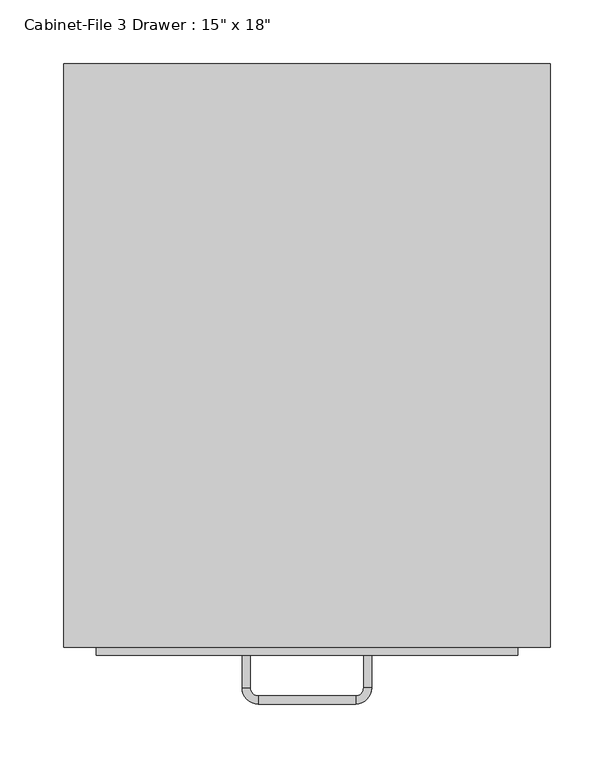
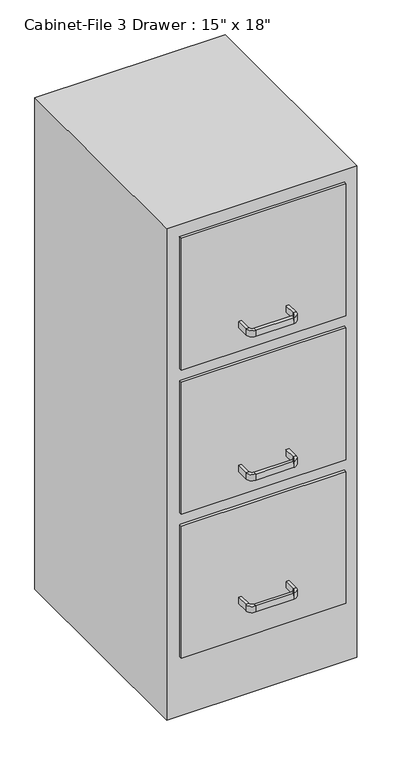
"""IFC4 building model written with IfcOpenShell, lengths in millimetres: furniture geometry."""

from ifc_helpers import new_model, si_unit, frame, origin, origin_with_axes, place, context, project, spatial, polyline, circle_curve, outline, extrude, source, transform, mapped, element, save
from ifc_brep_helpers import plane_surface, cylinder_surface, revolved_surface, advanced_brep


def furniture_552c1472(model_context):
    return source(origin(), model_context, "Body", "SolidModel", [
        extrude(outline(polyline([(62.603553, 86.4656999), (62.603553, -370.7343001), (-318.396447, -370.7343001), (-318.396447, 86.4656999), (62.603553, 86.4656999)])), origin_with_axes(), (0.0, 0.0, 1.0), 1041.4),
        extrude(outline(polyline([(37.203553, -377.0843001), (-292.996447, -377.0843001), (-292.996447, -370.7343001), (37.203553, -370.7343001), (37.203553, -377.0843001)])), frame((0.0, 0.0, 736.6), z_axis=(0.0, 0.0, 1.0), x_axis=(1.0, 0.0, 0.0)), (0.0, 0.0, 1.0), 279.4),
        extrude(outline(polyline([(37.203553, -377.0843001), (-292.996447, -377.0843001), (-292.996447, -370.7343001), (37.203553, -370.7343001), (37.203553, -377.0843001)])), frame((0.0, 0.0, 431.8), z_axis=(0.0, 0.0, 1.0), x_axis=(1.0, 0.0, 0.0)), (0.0, 0.0, 1.0), 279.4),
        extrude(outline(polyline([(37.203553, -377.0843001), (-292.996447, -377.0843001), (-292.996447, -370.7343001), (37.203553, -370.7343001), (37.203553, -377.0843001)])), frame((0.0, 0.0, 127.0), z_axis=(0.0, 0.0, 1.0), x_axis=(1.0, 0.0, 0.0)), (0.0, 0.0, 1.0), 279.4),
        advanced_brep(
        [(-172.346447, -377.0843001, 203.2), (-178.696447, -377.0843001, 203.2), (-178.696447, -377.0843001, 215.9), (-172.346447, -377.0843001, 215.9), (-172.346447, -402.4843001, 203.2), (-178.696447, -402.4843001, 203.2), (-178.696447, -402.4843001, 215.9), (-172.346447, -402.4843001, 215.9), (-165.996447, -415.1843001, 203.2), (-165.996447, -408.8343001, 203.2), (-165.996447, -415.1843001, 215.9), (-165.996447, -408.8343001, 215.9), (-89.796447, -408.8343001, 203.2), (-89.796447, -415.1843001, 203.2), (-89.796447, -415.1843001, 215.9), (-89.796447, -408.8343001, 215.9), (-77.096447, -402.4843001, 203.2), (-83.446447, -402.4843001, 203.2), (-77.096447, -402.4843001, 215.9), (-83.446447, -402.4843001, 215.9), (-83.446447, -377.0843001, 203.2), (-83.446447, -377.0843001, 215.9), (-77.096447, -377.0843001, 215.9), (-77.096447, -377.0843001, 203.2)],
        [
            (0, 1),
            (1, 2),
            (2, 3),
            (3, 0),
            (0, 4),
            (4, 5),
            (5, 1),
            (5, 6),
            (6, 2),
            (6, 7),
            (7, 3),
            (7, 4),
            (8, 5, circle_curve(frame((-165.996447, -402.4843001, 203.2), z_axis=(0.0, 0.0, -1.0), x_axis=(-1.0, 0.0, 0.0)), 12.7)),
            (4, 9, circle_curve(frame((-165.996447, -402.4843001, 203.2), z_axis=(0.0, 0.0, 1.0), x_axis=(-1.0, 0.0, 0.0)), 6.35)),
            (9, 8),
            (10, 6, circle_curve(frame((-165.996447, -402.4843001, 215.9), z_axis=(0.0, 0.0, -1.0), x_axis=(-1.0, 0.0, 0.0)), 12.7)),
            (8, 10),
            (11, 7, circle_curve(frame((-165.996447, -402.4843001, 215.9), z_axis=(0.0, 0.0, -1.0), x_axis=(-1.0, 0.0, 0.0)), 6.35)),
            (10, 11),
            (11, 9),
            (9, 12),
            (12, 13),
            (13, 8),
            (13, 14),
            (14, 10),
            (14, 15),
            (15, 11),
            (15, 12),
            (16, 13, circle_curve(frame((-89.796447, -402.4843001, 203.2), z_axis=(0.0, 0.0, -1.0), x_axis=(0.0, -1.0, 0.0)), 12.7)),
            (12, 17, circle_curve(frame((-89.796447, -402.4843001, 203.2), z_axis=(0.0, 0.0, 1.0), x_axis=(0.0, -1.0, 0.0)), 6.35)),
            (17, 16),
            (18, 14, circle_curve(frame((-89.796447, -402.4843001, 215.9), z_axis=(0.0, 0.0, -1.0), x_axis=(0.0, -1.0, 0.0)), 12.7)),
            (16, 18),
            (19, 15, circle_curve(frame((-89.796447, -402.4843001, 215.9), z_axis=(0.0, 0.0, -1.0), x_axis=(0.0, -1.0, 0.0)), 6.35)),
            (18, 19),
            (19, 17),
            (20, 21),
            (21, 22),
            (22, 23),
            (23, 20),
            (17, 20),
            (23, 16),
            (22, 18),
            (21, 19),
        ],
        [
            plane_surface(frame((-978.8216451, -377.0843001, 0.0), z_axis=(0.0, 1.0, 0.0), x_axis=(0.0, 0.0, -1.0))),
            plane_surface(frame((-172.346447, -377.0843001, 203.2), z_axis=(0.0, 0.0, -1.0), x_axis=(0.0, -1.0, 0.0))),
            plane_surface(frame((-178.696447, -377.0843001, 203.2), z_axis=(-1.0, 0.0, 0.0), x_axis=(0.0, -1.0, 0.0))),
            plane_surface(frame((-178.696447, -377.0843001, 215.9), z_axis=(0.0, 0.0, 1.0), x_axis=(0.0, -1.0, 0.0))),
            plane_surface(frame((-172.346447, -377.0843001, 215.9), z_axis=(1.0, 0.0, 0.0), x_axis=(0.0, -1.0, 0.0))),
            plane_surface(frame((-165.996447, -402.4843001, 203.2), z_axis=(0.0, 0.0, -1.0), x_axis=(-1.0, 0.0, 0.0))),
            cylinder_surface(frame((-165.996447, -402.4843001, 0.0), z_axis=(0.0, 0.0, 1.0), x_axis=(-1.0, 0.0, 0.0)), 12.7),
            plane_surface(frame((-165.996447, -402.4843001, 215.9), z_axis=(0.0, 0.0, 1.0), x_axis=(-1.0, 0.0, 0.0))),
            revolved_surface(polyline([(-172.34644699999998, -402.4843001, 215.9), (-172.34644699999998, -402.4843001, 203.2)]), (-165.996447, -402.4843001, 0.0), (0.0, 0.0, 1.0)),
            plane_surface(frame((-165.996447, -408.8343001, 203.2), z_axis=(0.0, 0.0, -1.0), x_axis=(1.0, 0.0, 0.0))),
            plane_surface(frame((-165.996447, -415.1843001, 203.2), z_axis=(0.0, -1.0, 0.0), x_axis=(1.0, 0.0, 0.0))),
            plane_surface(frame((-165.996447, -415.1843001, 215.9), z_axis=(0.0, 0.0, 1.0), x_axis=(1.0, 0.0, 0.0))),
            plane_surface(frame((-165.996447, -408.8343001, 215.9), z_axis=(0.0, 1.0, 0.0), x_axis=(1.0, 0.0, 0.0))),
            plane_surface(frame((-89.796447, -402.4843001, 203.2), z_axis=(0.0, 0.0, -1.0), x_axis=(0.0, -1.0, 0.0))),
            cylinder_surface(frame((-89.796447, -402.4843001, 0.0), z_axis=(0.0, 0.0, 1.0), x_axis=(0.0, -1.0, 0.0)), 12.7),
            plane_surface(frame((-89.796447, -402.4843001, 215.9), z_axis=(0.0, 0.0, 1.0), x_axis=(0.0, -1.0, 0.0))),
            revolved_surface(polyline([(-89.796447, -408.8343001, 215.9), (-89.796447, -408.8343001, 203.2)]), (-89.796447, -402.4843001, 0.0), (0.0, 0.0, 1.0)),
            plane_surface(frame((-877.2216451, -377.0843001, 0.0), z_axis=(0.0, 1.0, 0.0), x_axis=(0.0, 0.0, 1.0))),
            plane_surface(frame((-83.446447, -402.4843001, 203.2), z_axis=(0.0, 0.0, -1.0), x_axis=(0.0, 1.0, 0.0))),
            plane_surface(frame((-77.096447, -402.4843001, 203.2), z_axis=(1.0, 0.0, 0.0), x_axis=(0.0, 1.0, 0.0))),
            plane_surface(frame((-77.096447, -402.4843001, 215.9), z_axis=(0.0, 0.0, 1.0), x_axis=(0.0, 1.0, 0.0))),
            plane_surface(frame((-83.446447, -402.4843001, 215.9), z_axis=(-1.0, 0.0, 0.0), x_axis=(0.0, 1.0, 0.0))),
        ],
        [
            (0, [[1, 2, 3, 4]]),
            (1, [[-1, 5, 6, 7]]),
            (2, [[-2, -7, 8, 9]]),
            (3, [[-3, -9, 10, 11]]),
            (4, [[-4, -11, 12, -5]]),
            (5, [[13, -6, 14, 15]]),
            (6, [[16, -8, -13, 17]]),
            (7, [[18, -10, -16, 19]]),
            (8, [[-14, -12, -18, 20]]),
            (9, [[-15, 21, 22, 23]]),
            (10, [[-17, -23, 24, 25]]),
            (11, [[-19, -25, 26, 27]]),
            (12, [[-20, -27, 28, -21]]),
            (13, [[29, -22, 30, 31]]),
            (14, [[32, -24, -29, 33]]),
            (15, [[34, -26, -32, 35]]),
            (16, [[-30, -28, -34, 36]]),
            (17, [[37, 38, 39, 40]]),
            (18, [[-31, 41, -40, 42]]),
            (19, [[-33, -42, -39, 43]]),
            (20, [[-35, -43, -38, 44]]),
            (21, [[-36, -44, -37, -41]]),
        ],
    ),
        advanced_brep(
        [(-172.346447, -377.0843001, 482.6), (-178.696447, -377.0843001, 482.6), (-178.696447, -377.0843001, 495.3), (-172.346447, -377.0843001, 495.3), (-172.346447, -402.4843001, 482.6), (-178.696447, -402.4843001, 482.6), (-178.696447, -402.4843001, 495.3), (-172.346447, -402.4843001, 495.3), (-165.996447, -415.1843001, 482.6), (-165.996447, -408.8343001, 482.6), (-165.996447, -415.1843001, 495.3), (-165.996447, -408.8343001, 495.3), (-89.796447, -408.8343001, 482.6), (-89.796447, -415.1843001, 482.6), (-89.796447, -415.1843001, 495.3), (-89.796447, -408.8343001, 495.3), (-77.096447, -402.4843001, 482.6), (-83.446447, -402.4843001, 482.6), (-77.096447, -402.4843001, 495.3), (-83.446447, -402.4843001, 495.3), (-83.446447, -377.0843001, 482.6), (-83.446447, -377.0843001, 495.3), (-77.096447, -377.0843001, 495.3), (-77.096447, -377.0843001, 482.6)],
        [
            (0, 1),
            (1, 2),
            (2, 3),
            (3, 0),
            (0, 4),
            (4, 5),
            (5, 1),
            (5, 6),
            (6, 2),
            (6, 7),
            (7, 3),
            (7, 4),
            (8, 5, circle_curve(frame((-165.996447, -402.4843001, 482.6), z_axis=(0.0, 0.0, -1.0), x_axis=(-1.0, 0.0, 0.0)), 12.7)),
            (4, 9, circle_curve(frame((-165.996447, -402.4843001, 482.6), z_axis=(0.0, 0.0, 1.0), x_axis=(-1.0, 0.0, 0.0)), 6.35)),
            (9, 8),
            (10, 6, circle_curve(frame((-165.996447, -402.4843001, 495.3), z_axis=(0.0, 0.0, -1.0), x_axis=(-1.0, 0.0, 0.0)), 12.7)),
            (8, 10),
            (11, 7, circle_curve(frame((-165.996447, -402.4843001, 495.3), z_axis=(0.0, 0.0, -1.0), x_axis=(-1.0, 0.0, 0.0)), 6.35)),
            (10, 11),
            (11, 9),
            (9, 12),
            (12, 13),
            (13, 8),
            (13, 14),
            (14, 10),
            (14, 15),
            (15, 11),
            (15, 12),
            (16, 13, circle_curve(frame((-89.796447, -402.4843001, 482.6), z_axis=(0.0, 0.0, -1.0), x_axis=(0.0, -1.0, 0.0)), 12.7)),
            (12, 17, circle_curve(frame((-89.796447, -402.4843001, 482.6), z_axis=(0.0, 0.0, 1.0), x_axis=(0.0, -1.0, 0.0)), 6.35)),
            (17, 16),
            (18, 14, circle_curve(frame((-89.796447, -402.4843001, 495.3), z_axis=(0.0, 0.0, -1.0), x_axis=(0.0, -1.0, 0.0)), 12.7)),
            (16, 18),
            (19, 15, circle_curve(frame((-89.796447, -402.4843001, 495.3), z_axis=(0.0, 0.0, -1.0), x_axis=(0.0, -1.0, 0.0)), 6.35)),
            (18, 19),
            (19, 17),
            (20, 21),
            (21, 22),
            (22, 23),
            (23, 20),
            (17, 20),
            (23, 16),
            (22, 18),
            (21, 19),
        ],
        [
            plane_surface(frame((-978.8216451, -377.0843001, 0.0), z_axis=(0.0, 1.0, 0.0), x_axis=(0.0, 0.0, -1.0))),
            plane_surface(frame((-172.346447, -377.0843001, 482.6), z_axis=(0.0, 0.0, -1.0), x_axis=(0.0, -1.0, 0.0))),
            plane_surface(frame((-178.696447, -377.0843001, 482.6), z_axis=(-1.0, 0.0, 0.0), x_axis=(0.0, -1.0, 0.0))),
            plane_surface(frame((-178.696447, -377.0843001, 495.3), z_axis=(0.0, 0.0, 1.0), x_axis=(0.0, -1.0, 0.0))),
            plane_surface(frame((-172.346447, -377.0843001, 495.3), z_axis=(1.0, 0.0, 0.0), x_axis=(0.0, -1.0, 0.0))),
            plane_surface(frame((-165.996447, -402.4843001, 482.6), z_axis=(0.0, 0.0, -1.0), x_axis=(-1.0, 0.0, 0.0))),
            cylinder_surface(frame((-165.996447, -402.4843001, 0.0), z_axis=(0.0, 0.0, 1.0), x_axis=(-1.0, 0.0, 0.0)), 12.7),
            plane_surface(frame((-165.996447, -402.4843001, 495.3), z_axis=(0.0, 0.0, 1.0), x_axis=(-1.0, 0.0, 0.0))),
            revolved_surface(polyline([(-172.34644699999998, -402.4843001, 495.3), (-172.34644699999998, -402.4843001, 482.6)]), (-165.996447, -402.4843001, 0.0), (0.0, 0.0, 1.0)),
            plane_surface(frame((-165.996447, -408.8343001, 482.6), z_axis=(0.0, 0.0, -1.0), x_axis=(1.0, 0.0, 0.0))),
            plane_surface(frame((-165.996447, -415.1843001, 482.6), z_axis=(0.0, -1.0, 0.0), x_axis=(1.0, 0.0, 0.0))),
            plane_surface(frame((-165.996447, -415.1843001, 495.3), z_axis=(0.0, 0.0, 1.0), x_axis=(1.0, 0.0, 0.0))),
            plane_surface(frame((-165.996447, -408.8343001, 495.3), z_axis=(0.0, 1.0, 0.0), x_axis=(1.0, 0.0, 0.0))),
            plane_surface(frame((-89.796447, -402.4843001, 482.6), z_axis=(0.0, 0.0, -1.0), x_axis=(0.0, -1.0, 0.0))),
            cylinder_surface(frame((-89.796447, -402.4843001, 0.0), z_axis=(0.0, 0.0, 1.0), x_axis=(0.0, -1.0, 0.0)), 12.7),
            plane_surface(frame((-89.796447, -402.4843001, 495.3), z_axis=(0.0, 0.0, 1.0), x_axis=(0.0, -1.0, 0.0))),
            revolved_surface(polyline([(-89.796447, -408.8343001, 495.3), (-89.796447, -408.8343001, 482.6)]), (-89.796447, -402.4843001, 0.0), (0.0, 0.0, 1.0)),
            plane_surface(frame((-877.2216451, -377.0843001, 0.0), z_axis=(0.0, 1.0, 0.0), x_axis=(0.0, 0.0, 1.0))),
            plane_surface(frame((-83.446447, -402.4843001, 482.6), z_axis=(0.0, 0.0, -1.0), x_axis=(0.0, 1.0, 0.0))),
            plane_surface(frame((-77.096447, -402.4843001, 482.6), z_axis=(1.0, 0.0, 0.0), x_axis=(0.0, 1.0, 0.0))),
            plane_surface(frame((-77.096447, -402.4843001, 495.3), z_axis=(0.0, 0.0, 1.0), x_axis=(0.0, 1.0, 0.0))),
            plane_surface(frame((-83.446447, -402.4843001, 495.3), z_axis=(-1.0, 0.0, 0.0), x_axis=(0.0, 1.0, 0.0))),
        ],
        [
            (0, [[1, 2, 3, 4]]),
            (1, [[-1, 5, 6, 7]]),
            (2, [[-2, -7, 8, 9]]),
            (3, [[-3, -9, 10, 11]]),
            (4, [[-4, -11, 12, -5]]),
            (5, [[13, -6, 14, 15]]),
            (6, [[16, -8, -13, 17]]),
            (7, [[18, -10, -16, 19]]),
            (8, [[-14, -12, -18, 20]]),
            (9, [[-15, 21, 22, 23]]),
            (10, [[-17, -23, 24, 25]]),
            (11, [[-19, -25, 26, 27]]),
            (12, [[-20, -27, 28, -21]]),
            (13, [[29, -22, 30, 31]]),
            (14, [[32, -24, -29, 33]]),
            (15, [[34, -26, -32, 35]]),
            (16, [[-30, -28, -34, 36]]),
            (17, [[37, 38, 39, 40]]),
            (18, [[-31, 41, -40, 42]]),
            (19, [[-33, -42, -39, 43]]),
            (20, [[-35, -43, -38, 44]]),
            (21, [[-36, -44, -37, -41]]),
        ],
    ),
        advanced_brep(
        [(-172.346447, -377.0843001, 787.4), (-178.696447, -377.0843001, 787.4), (-178.696447, -377.0843001, 800.1), (-172.346447, -377.0843001, 800.1), (-172.346447, -402.4843001, 787.4), (-178.696447, -402.4843001, 787.4), (-178.696447, -402.4843001, 800.1), (-172.346447, -402.4843001, 800.1), (-165.996447, -415.1843001, 787.4), (-165.996447, -408.8343001, 787.4), (-165.996447, -415.1843001, 800.1), (-165.996447, -408.8343001, 800.1), (-89.796447, -408.8343001, 787.4), (-89.796447, -415.1843001, 787.4), (-89.796447, -415.1843001, 800.1), (-89.796447, -408.8343001, 800.1), (-77.096447, -402.4843001, 787.4), (-83.446447, -402.4843001, 787.4), (-77.096447, -402.4843001, 800.1), (-83.446447, -402.4843001, 800.1), (-83.446447, -377.0843001, 787.4), (-83.446447, -377.0843001, 800.1), (-77.096447, -377.0843001, 800.1), (-77.096447, -377.0843001, 787.4)],
        [
            (0, 1),
            (1, 2),
            (2, 3),
            (3, 0),
            (0, 4),
            (4, 5),
            (5, 1),
            (5, 6),
            (6, 2),
            (6, 7),
            (7, 3),
            (7, 4),
            (8, 5, circle_curve(frame((-165.996447, -402.4843001, 787.4), z_axis=(0.0, 0.0, -1.0), x_axis=(-1.0, 0.0, 0.0)), 12.7)),
            (4, 9, circle_curve(frame((-165.996447, -402.4843001, 787.4), z_axis=(0.0, 0.0, 1.0), x_axis=(-1.0, 0.0, 0.0)), 6.35)),
            (9, 8),
            (10, 6, circle_curve(frame((-165.996447, -402.4843001, 800.1), z_axis=(0.0, 0.0, -1.0), x_axis=(-1.0, 0.0, 0.0)), 12.7)),
            (8, 10),
            (11, 7, circle_curve(frame((-165.996447, -402.4843001, 800.1), z_axis=(0.0, 0.0, -1.0), x_axis=(-1.0, 0.0, 0.0)), 6.35)),
            (10, 11),
            (11, 9),
            (9, 12),
            (12, 13),
            (13, 8),
            (13, 14),
            (14, 10),
            (14, 15),
            (15, 11),
            (15, 12),
            (16, 13, circle_curve(frame((-89.796447, -402.4843001, 787.4), z_axis=(0.0, 0.0, -1.0), x_axis=(0.0, -1.0, 0.0)), 12.7)),
            (12, 17, circle_curve(frame((-89.796447, -402.4843001, 787.4), z_axis=(0.0, 0.0, 1.0), x_axis=(0.0, -1.0, 0.0)), 6.35)),
            (17, 16),
            (18, 14, circle_curve(frame((-89.796447, -402.4843001, 800.1), z_axis=(0.0, 0.0, -1.0), x_axis=(0.0, -1.0, 0.0)), 12.7)),
            (16, 18),
            (19, 15, circle_curve(frame((-89.796447, -402.4843001, 800.1), z_axis=(0.0, 0.0, -1.0), x_axis=(0.0, -1.0, 0.0)), 6.35)),
            (18, 19),
            (19, 17),
            (20, 21),
            (21, 22),
            (22, 23),
            (23, 20),
            (17, 20),
            (23, 16),
            (22, 18),
            (21, 19),
        ],
        [
            plane_surface(frame((-978.8216451, -377.0843001, 0.0), z_axis=(0.0, 1.0, 0.0), x_axis=(0.0, 0.0, -1.0))),
            plane_surface(frame((-172.346447, -377.0843001, 787.4), z_axis=(0.0, 0.0, -1.0), x_axis=(0.0, -1.0, 0.0))),
            plane_surface(frame((-178.696447, -377.0843001, 787.4), z_axis=(-1.0, 0.0, 0.0), x_axis=(0.0, -1.0, 0.0))),
            plane_surface(frame((-178.696447, -377.0843001, 800.1), z_axis=(0.0, 0.0, 1.0), x_axis=(0.0, -1.0, 0.0))),
            plane_surface(frame((-172.346447, -377.0843001, 800.1), z_axis=(1.0, 0.0, 0.0), x_axis=(0.0, -1.0, 0.0))),
            plane_surface(frame((-165.996447, -402.4843001, 787.4), z_axis=(0.0, 0.0, -1.0), x_axis=(-1.0, 0.0, 0.0))),
            cylinder_surface(frame((-165.996447, -402.4843001, 0.0), z_axis=(0.0, 0.0, 1.0), x_axis=(-1.0, 0.0, 0.0)), 12.7),
            plane_surface(frame((-165.996447, -402.4843001, 800.1), z_axis=(0.0, 0.0, 1.0), x_axis=(-1.0, 0.0, 0.0))),
            revolved_surface(polyline([(-172.34644699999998, -402.4843001, 800.1), (-172.34644699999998, -402.4843001, 787.4)]), (-165.996447, -402.4843001, 0.0), (0.0, 0.0, 1.0)),
            plane_surface(frame((-165.996447, -408.8343001, 787.4), z_axis=(0.0, 0.0, -1.0), x_axis=(1.0, 0.0, 0.0))),
            plane_surface(frame((-165.996447, -415.1843001, 787.4), z_axis=(0.0, -1.0, 0.0), x_axis=(1.0, 0.0, 0.0))),
            plane_surface(frame((-165.996447, -415.1843001, 800.1), z_axis=(0.0, 0.0, 1.0), x_axis=(1.0, 0.0, 0.0))),
            plane_surface(frame((-165.996447, -408.8343001, 800.1), z_axis=(0.0, 1.0, 0.0), x_axis=(1.0, 0.0, 0.0))),
            plane_surface(frame((-89.796447, -402.4843001, 787.4), z_axis=(0.0, 0.0, -1.0), x_axis=(0.0, -1.0, 0.0))),
            cylinder_surface(frame((-89.796447, -402.4843001, 0.0), z_axis=(0.0, 0.0, 1.0), x_axis=(0.0, -1.0, 0.0)), 12.7),
            plane_surface(frame((-89.796447, -402.4843001, 800.1), z_axis=(0.0, 0.0, 1.0), x_axis=(0.0, -1.0, 0.0))),
            revolved_surface(polyline([(-89.796447, -408.8343001, 800.1), (-89.796447, -408.8343001, 787.4)]), (-89.796447, -402.4843001, 0.0), (0.0, 0.0, 1.0)),
            plane_surface(frame((-877.2216451, -377.0843001, 0.0), z_axis=(0.0, 1.0, 0.0), x_axis=(0.0, 0.0, 1.0))),
            plane_surface(frame((-83.446447, -402.4843001, 787.4), z_axis=(0.0, 0.0, -1.0), x_axis=(0.0, 1.0, 0.0))),
            plane_surface(frame((-77.096447, -402.4843001, 787.4), z_axis=(1.0, 0.0, 0.0), x_axis=(0.0, 1.0, 0.0))),
            plane_surface(frame((-77.096447, -402.4843001, 800.1), z_axis=(0.0, 0.0, 1.0), x_axis=(0.0, 1.0, 0.0))),
            plane_surface(frame((-83.446447, -402.4843001, 800.1), z_axis=(-1.0, 0.0, 0.0), x_axis=(0.0, 1.0, 0.0))),
        ],
        [
            (0, [[1, 2, 3, 4]]),
            (1, [[-1, 5, 6, 7]]),
            (2, [[-2, -7, 8, 9]]),
            (3, [[-3, -9, 10, 11]]),
            (4, [[-4, -11, 12, -5]]),
            (5, [[13, -6, 14, 15]]),
            (6, [[16, -8, -13, 17]]),
            (7, [[18, -10, -16, 19]]),
            (8, [[-14, -12, -18, 20]]),
            (9, [[-15, 21, 22, 23]]),
            (10, [[-17, -23, 24, 25]]),
            (11, [[-19, -25, 26, 27]]),
            (12, [[-20, -27, 28, -21]]),
            (13, [[29, -22, 30, 31]]),
            (14, [[32, -24, -29, 33]]),
            (15, [[34, -26, -32, 35]]),
            (16, [[-30, -28, -34, 36]]),
            (17, [[37, 38, 39, 40]]),
            (18, [[-31, 41, -40, 42]]),
            (19, [[-33, -42, -39, 43]]),
            (20, [[-35, -43, -38, 44]]),
            (21, [[-36, -44, -37, -41]]),
        ],
    ),
    ])


if __name__ == "__main__":
    model = new_model("IFC4")
    model_context = context("Model", 3, world=origin())
    ifc_project = project(units=[si_unit("LENGTHUNIT", "METRE", prefix="MILLI")], contexts=[model_context])
    site = spatial("IfcSite", under=ifc_project)
    building = spatial("IfcBuilding", under=site)
    placement = place(None, origin())
    furniture_shape = furniture_552c1472(model_context)
    element("IfcFurniture", 1, ObjectType="Cabinet-File 3 Drawer : 15\" x 18\"", at=placement, inside=building, context=model_context, shape_type="MappedRepresentation", body=[
        mapped(furniture_shape, transform((0.0, 0.0, 0.0), x_axis=(1.0, 0.0, 0.0), y_axis=(0.0, 1.0, 0.0), z_axis=(0.0, 0.0, 1.0))),
    ])
    save(model, "model.ifc")
